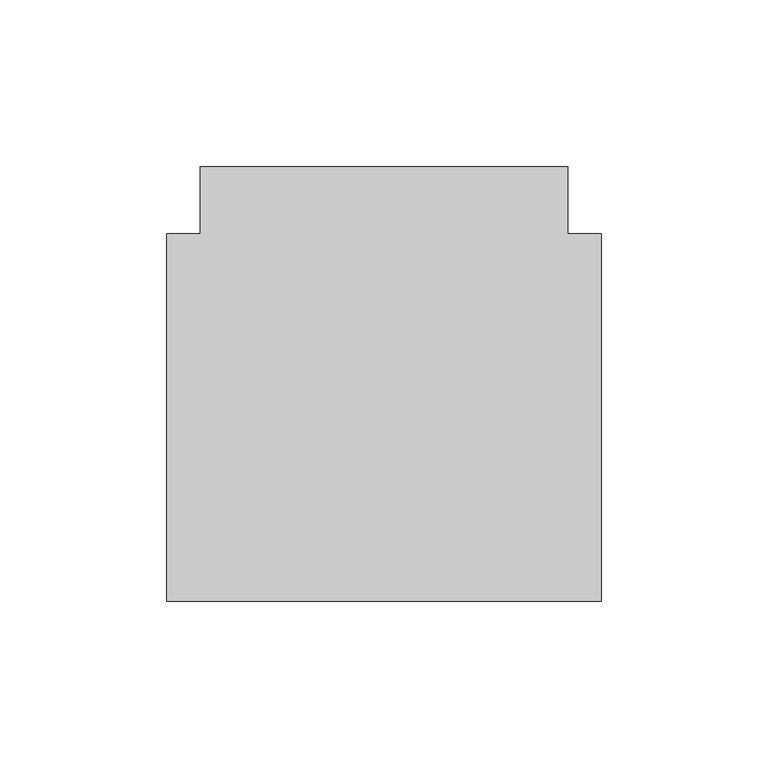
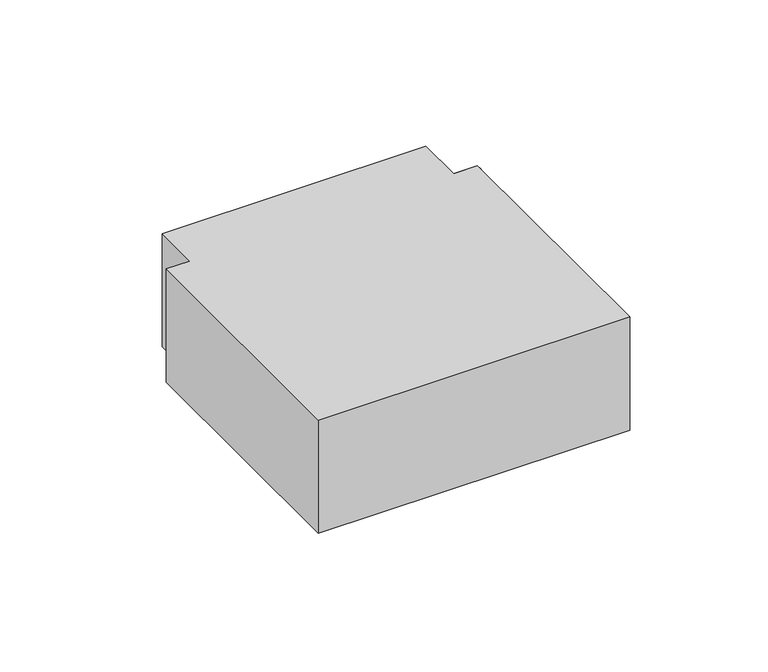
"""IFC4 building model written with IfcOpenShell, lengths in millimetres: cable carrier fitting geometry, КНС_Тройник_ILF_DKC : Белый."""

from ifc_helpers import new_model, si_unit, frame, origin, place, context, project, spatial, polyline, outline, extrude, faceted_brep, source, transform, mapped, element, save


def cable_carrier_fitting_b9845bec(model_context):
    return source(origin(), model_context, "Body", "SolidModel", [
        extrude(outline(polyline([(-55.0, 55.0), (-55.0, 75.0), (55.0, 75.0), (55.0, 55.0), (65.0, 55.0), (65.0, -55.0), (-65.0, -55.0), (-65.0, 55.0), (-55.0, 55.0)])), frame((0.0, 0.0, -25.0), z_axis=(0.0, 0.0, 1.0), x_axis=(1.0, 0.0, 0.0)), (0.0, 0.0, 1.0), 50.0),
        faceted_brep([(65.0, -52.46, -22.46), (65.0, 52.46, -22.46), (52.46, 52.46, -22.46), (52.46, 75.0, -22.46), (-52.46, 75.0, -22.46), (-52.46, 52.46, -22.46), (-65.0, 52.46, -22.46), (-65.0, -52.46, -22.46), (65.0, -55.0, -25.0), (-65.0, -55.0, -25.0), (-65.0, 55.0, -25.0), (-55.0, 55.0, -25.0), (-55.0, 75.0, -25.0), (55.0, 75.0, -25.0), (55.0, 55.0, -25.0), (65.0, 55.0, -25.0), (65.0, 55.0, 25.0), (65.0, 52.46, 25.0), (65.0, -52.46, 25.0), (65.0, -55.0, 25.0), (54.96, 55.0, 25.0), (55.0, 75.0, 25.0), (-54.96, 75.0, 25.0), (-52.46, 75.0, 25.0), (52.46, 75.0, 25.0), (-55.0, 55.0, 25.0), (-65.0, 55.0, 25.0), (-65.0, -55.0, 25.0), (-65.0, -52.46, 25.0), (-65.0, 52.46, 25.0), (52.46, 52.46, 25.0), (-52.46, 52.46, 25.0)], [[[0, 1, 2, 3, 4, 5, 6, 7]], [[8, 9, 10, 11, 12, 13, 14, 15]], [[8, 15, 16, 17, 1, 0, 18, 19]], [[16, 15, 14, 20]], [[20, 14, 13, 21]], [[21, 13, 12, 22, 23, 4, 3, 24]], [[22, 12, 11, 25]], [[25, 11, 10, 26]], [[26, 10, 9, 27, 28, 7, 6, 29]], [[27, 9, 8, 19]], [[20, 21, 24, 30, 17, 16]], [[25, 26, 29, 31, 23, 22]], [[27, 19, 18, 28]], [[31, 29, 6, 5]], [[23, 31, 5, 4]], [[30, 24, 3, 2]], [[17, 30, 2, 1]], [[28, 18, 0, 7]]]),
    ])


if __name__ == "__main__":
    model = new_model("IFC4")
    model_context = context("Model", 3, world=origin())
    ifc_project = project(units=[si_unit("LENGTHUNIT", "METRE", prefix="MILLI")], contexts=[model_context])
    site = spatial("IfcSite", under=ifc_project)
    building = spatial("IfcBuilding", under=site)
    placement = place(None, origin())
    cable_carrier_fitting_shape = cable_carrier_fitting_b9845bec(model_context)
    element("IfcCableCarrierFitting", 1, ObjectType="КНС_Тройник_ILF_DKC : Белый", at=placement, inside=building, context=model_context, shape_type="MappedRepresentation", body=[
        mapped(cable_carrier_fitting_shape, transform((0.0, 0.0, 0.0), x_axis=(1.0, 0.0, 0.0), y_axis=(0.0, 1.0, 0.0), z_axis=(0.0, 0.0, 1.0))),
    ])
    save(model, "model.ifc")
